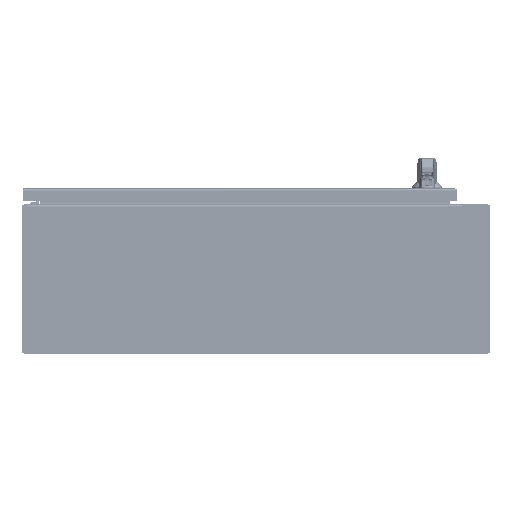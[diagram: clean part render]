
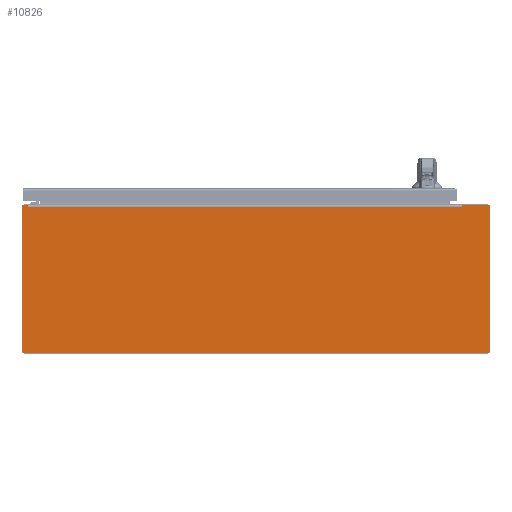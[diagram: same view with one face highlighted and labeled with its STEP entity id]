
A CAD part, front view. The second image highlights one B-rep face of the part: STEP entity #10826.
In plain terms, the highlighted planar face has unit normal (0, -1, 0).
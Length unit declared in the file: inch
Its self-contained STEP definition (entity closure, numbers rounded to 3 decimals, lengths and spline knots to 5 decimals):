
#9617=CARTESIAN_POINT('',(15.6025,0.,4.934));
#9618=DIRECTION('',(0.,-1.,0.));
#9619=DIRECTION('',(1.,0.,0.));
#9620=AXIS2_PLACEMENT_3D('',#9617,#9618,#9619);
#9625=DIRECTION('',(0.,0.,-1.));
#9626=VECTOR('',#9625,9.765);
#9627=CARTESIAN_POINT('',(15.6625,0.,4.934));
#9628=LINE('',#9627,#9626);
#9632=CARTESIAN_POINT('',(15.5375,0.,-4.831));
#9633=DIRECTION('',(0.,-1.,0.));
#9634=DIRECTION('',(0.,0.,-1.));
#9635=AXIS2_PLACEMENT_3D('',#9632,#9633,#9634);
#9640=DIRECTION('',(-1.,0.,0.));
#9641=VECTOR('',#9640,31.075);
#9642=CARTESIAN_POINT('',(15.5375,0.,-4.956));
#9643=LINE('',#9642,#9641);
#9647=CARTESIAN_POINT('',(-15.5375,0.,-4.831));
#9648=DIRECTION('',(0.,-1.,0.));
#9649=DIRECTION('',(-1.,0.,0.));
#9650=AXIS2_PLACEMENT_3D('',#9647,#9648,#9649);
#9655=DIRECTION('',(0.,0.,-1.));
#9656=VECTOR('',#9655,9.765);
#9657=CARTESIAN_POINT('',(-15.6625,0.,4.934));
#9658=LINE('',#9657,#9656);
#9662=CARTESIAN_POINT('',(-15.6025,0.,4.934));
#9663=DIRECTION('',(0.,-1.,0.));
#9664=DIRECTION('',(0.,0.,1.));
#9665=AXIS2_PLACEMENT_3D('',#9662,#9663,#9664);
#9670=DIRECTION('',(1.,0.,0.));
#9671=VECTOR('',#9670,0.2939);
#9672=CARTESIAN_POINT('',(-15.6025,0.,4.994));
#9673=LINE('',#9672,#9671);
#9677=DIRECTION('',(1.,0.,0.));
#9678=VECTOR('',#9677,1.7939);
#9679=CARTESIAN_POINT('',(13.8086,0.,4.994));
#9680=LINE('',#9679,#9678);
#9705=DIRECTION('',(0.,0.,-1.));
#9706=VECTOR('',#9705,0.125);
#9707=CARTESIAN_POINT('',(13.8086,0.,4.994));
#9708=LINE('',#9707,#9706);
#10017=DIRECTION('',(1.,0.,0.));
#10018=VECTOR('',#10017,29.1172);
#10019=CARTESIAN_POINT('',(-15.3086,0.,4.869));
#10020=LINE('',#10019,#10018);
#10054=DIRECTION('',(0.,0.,1.));
#10055=VECTOR('',#10054,0.125);
#10056=CARTESIAN_POINT('',(-15.3086,0.,4.869));
#10057=LINE('',#10056,#10055);
#10631=CARTESIAN_POINT('',(-15.3086,0.,4.869));
#10632=CARTESIAN_POINT('',(13.8086,0.,4.869));
#10633=VERTEX_POINT('',#10631);
#10634=VERTEX_POINT('',#10632);
#10715=CARTESIAN_POINT('',(13.8086,0.,4.994));
#10717=VERTEX_POINT('',#10715);
#10719=CARTESIAN_POINT('',(-15.3086,0.,4.994));
#10721=VERTEX_POINT('',#10719);
#10763=CARTESIAN_POINT('',(15.6625,0.,4.934));
#10764=CARTESIAN_POINT('',(15.6025,0.,4.994));
#10765=VERTEX_POINT('',#10763);
#10766=VERTEX_POINT('',#10764);
#10771=CARTESIAN_POINT('',(-15.6025,0.,4.994));
#10772=CARTESIAN_POINT('',(-15.6625,0.,4.934));
#10773=VERTEX_POINT('',#10771);
#10774=VERTEX_POINT('',#10772);
#10779=CARTESIAN_POINT('',(-15.6625,0.,-4.831));
#10780=CARTESIAN_POINT('',(-15.5375,0.,-4.956));
#10781=VERTEX_POINT('',#10779);
#10782=VERTEX_POINT('',#10780);
#10787=CARTESIAN_POINT('',(15.5375,0.,-4.956));
#10788=CARTESIAN_POINT('',(15.6625,0.,-4.831));
#10789=VERTEX_POINT('',#10787);
#10790=VERTEX_POINT('',#10788);
#10795=CARTESIAN_POINT('',(0.,0.,0.));
#10796=DIRECTION('',(0.,-1.,0.));
#10797=DIRECTION('',(-1.,0.,0.));
#10798=AXIS2_PLACEMENT_3D('',#10795,#10796,#10797);
#10799=PLANE('',#10798);
#10801=ORIENTED_EDGE('',*,*,#10800,.F.);
#10803=ORIENTED_EDGE('',*,*,#10802,.T.);
#10805=ORIENTED_EDGE('',*,*,#10804,.F.);
#10807=ORIENTED_EDGE('',*,*,#10806,.T.);
#10809=ORIENTED_EDGE('',*,*,#10808,.F.);
#10811=ORIENTED_EDGE('',*,*,#10810,.F.);
#10813=ORIENTED_EDGE('',*,*,#10812,.F.);
#10815=ORIENTED_EDGE('',*,*,#10814,.T.);
#10817=ORIENTED_EDGE('',*,*,#10816,.F.);
#10819=ORIENTED_EDGE('',*,*,#10818,.T.);
#10821=ORIENTED_EDGE('',*,*,#10820,.F.);
#10823=ORIENTED_EDGE('',*,*,#10822,.T.);
#10824=EDGE_LOOP('',(#10801,#10803,#10805,#10807,#10809,#10811,#10813,#10815,
#10817,#10819,#10821,#10823));
#10825=FACE_OUTER_BOUND('',#10824,.F.);
#9621=CIRCLE('',#9620,0.06);
#9636=CIRCLE('',#9635,0.125);
#9651=CIRCLE('',#9650,0.125);
#9666=CIRCLE('',#9665,0.06);
#10800=EDGE_CURVE('',#10765,#10766,#9621,.T.);
#10802=EDGE_CURVE('',#10765,#10790,#9628,.T.);
#10804=EDGE_CURVE('',#10789,#10790,#9636,.T.);
#10806=EDGE_CURVE('',#10789,#10782,#9643,.T.);
#10808=EDGE_CURVE('',#10781,#10782,#9651,.T.);
#10810=EDGE_CURVE('',#10774,#10781,#9658,.T.);
#10812=EDGE_CURVE('',#10773,#10774,#9666,.T.);
#10814=EDGE_CURVE('',#10773,#10721,#9673,.T.);
#10816=EDGE_CURVE('',#10633,#10721,#10057,.T.);
#10818=EDGE_CURVE('',#10633,#10634,#10020,.T.);
#10820=EDGE_CURVE('',#10717,#10634,#9708,.T.);
#10822=EDGE_CURVE('',#10717,#10766,#9680,.T.);
#10826=ADVANCED_FACE('',(#10825),#10799,.T.);
